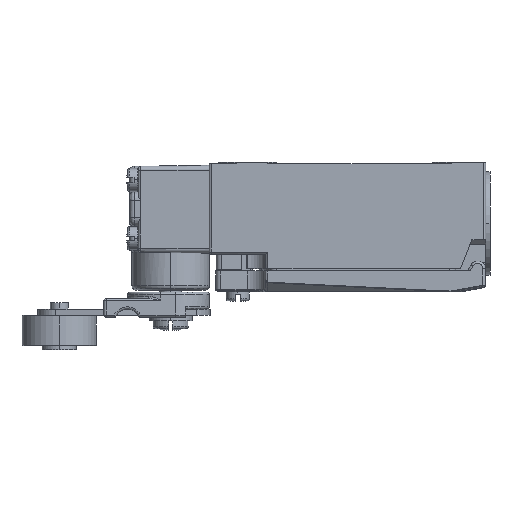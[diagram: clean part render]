
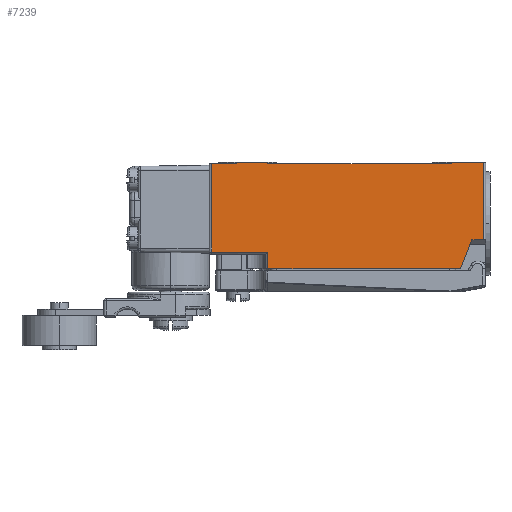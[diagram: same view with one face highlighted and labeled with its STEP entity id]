
A CAD part, left-side view. The second image highlights one B-rep face of the part: STEP entity #7239.
In plain terms, the highlighted planar face has unit normal (-1, 0, 0).
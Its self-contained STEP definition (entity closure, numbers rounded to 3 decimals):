
#1404=B_SPLINE_CURVE_WITH_KNOTS('',3,(#44862,#44863,#44864,#44865),
 .UNSPECIFIED.,.F.,.F.,(4,4),(0.,1.),.UNSPECIFIED.);
#1405=B_SPLINE_CURVE_WITH_KNOTS('',3,(#44982,#44983,#44984,#44985),
 .UNSPECIFIED.,.F.,.F.,(4,4),(0.,1.),.UNSPECIFIED.);
#1406=B_SPLINE_CURVE_WITH_KNOTS('',3,(#44986,#44987,#44988,#44989),
 .UNSPECIFIED.,.F.,.F.,(4,4),(0.,1.),.UNSPECIFIED.);
#1407=B_SPLINE_CURVE_WITH_KNOTS('',3,(#44991,#44992,#44993,#44994),
 .UNSPECIFIED.,.F.,.F.,(4,4),(0.,1.),.UNSPECIFIED.);
#1408=B_SPLINE_CURVE_WITH_KNOTS('',3,(#44996,#44997,#44998,#44999),
 .UNSPECIFIED.,.F.,.F.,(4,4),(0.,1.),.UNSPECIFIED.);
#1409=B_SPLINE_CURVE_WITH_KNOTS('',3,(#45007,#45008,#45009,#45010),
 .UNSPECIFIED.,.F.,.F.,(4,4),(0.,1.),.UNSPECIFIED.);
#1410=B_SPLINE_CURVE_WITH_KNOTS('',3,(#45011,#45012,#45013,#45014),
 .UNSPECIFIED.,.F.,.F.,(4,4),(0.,1.),.UNSPECIFIED.);
#1411=B_SPLINE_CURVE_WITH_KNOTS('',3,(#45015,#45016,#45017,#45018),
 .UNSPECIFIED.,.F.,.F.,(4,4),(0.,1.),.UNSPECIFIED.);
#2234=LINE('',#44846,#4811);
#2271=LINE('',#44965,#4848);
#2276=LINE('',#44979,#4853);
#2277=LINE('',#45001,#4854);
#2278=LINE('',#45003,#4855);
#2279=LINE('',#45005,#4856);
#4811=VECTOR('',#34747,1.);
#4848=VECTOR('',#34858,1.);
#4853=VECTOR('',#34869,1.);
#4854=VECTOR('',#34870,1.);
#4855=VECTOR('',#34871,1.);
#4856=VECTOR('',#34872,1.);
#7239=ADVANCED_FACE('',(#9702),#8825,.F.);
#8825=PLANE('',#31158);
#9702=FACE_OUTER_BOUND('',#11293,.T.);
#11293=EDGE_LOOP('',(#13835,#13836,#13837,#13838,#13839,#13840,#13841,#13842,
#13843,#13844,#13845,#13846,#13847,#13848));
#13835=ORIENTED_EDGE('',*,*,#25534,.F.);
#13836=ORIENTED_EDGE('',*,*,#25535,.F.);
#13837=ORIENTED_EDGE('',*,*,#25470,.F.);
#13838=ORIENTED_EDGE('',*,*,#25536,.T.);
#13839=ORIENTED_EDGE('',*,*,#25537,.T.);
#13840=ORIENTED_EDGE('',*,*,#25538,.T.);
#13841=ORIENTED_EDGE('',*,*,#25539,.T.);
#13842=ORIENTED_EDGE('',*,*,#25540,.F.);
#13843=ORIENTED_EDGE('',*,*,#25541,.F.);
#13844=ORIENTED_EDGE('',*,*,#25542,.T.);
#13845=ORIENTED_EDGE('',*,*,#25527,.F.);
#13846=ORIENTED_EDGE('',*,*,#25543,.T.);
#13847=ORIENTED_EDGE('',*,*,#25478,.F.);
#13848=ORIENTED_EDGE('',*,*,#25544,.T.);
#22320=VERTEX_POINT('',#44845);
#22321=VERTEX_POINT('',#44847);
#22328=VERTEX_POINT('',#44861);
#22329=VERTEX_POINT('',#44866);
#22360=VERTEX_POINT('',#44962);
#22361=VERTEX_POINT('',#44964);
#22368=VERTEX_POINT('',#44980);
#22369=VERTEX_POINT('',#44981);
#22370=VERTEX_POINT('',#44990);
#22371=VERTEX_POINT('',#44995);
#22372=VERTEX_POINT('',#45000);
#22373=VERTEX_POINT('',#45002);
#22374=VERTEX_POINT('',#45004);
#22375=VERTEX_POINT('',#45006);
#25470=EDGE_CURVE('',#22320,#22321,#2234,.T.);
#25478=EDGE_CURVE('',#22328,#22329,#1404,.T.);
#25527=EDGE_CURVE('',#22361,#22360,#2271,.T.);
#25534=EDGE_CURVE('',#22368,#22369,#2276,.T.);
#25535=EDGE_CURVE('',#22321,#22368,#1405,.T.);
#25536=EDGE_CURVE('',#22320,#22370,#1406,.T.);
#25537=EDGE_CURVE('',#22370,#22371,#1407,.T.);
#25538=EDGE_CURVE('',#22371,#22372,#1408,.T.);
#25539=EDGE_CURVE('',#22372,#22373,#2277,.T.);
#25540=EDGE_CURVE('',#22374,#22373,#2278,.T.);
#25541=EDGE_CURVE('',#22375,#22374,#2279,.T.);
#25542=EDGE_CURVE('',#22375,#22360,#1409,.T.);
#25543=EDGE_CURVE('',#22361,#22329,#1410,.T.);
#25544=EDGE_CURVE('',#22328,#22369,#1411,.T.);
#31158=AXIS2_PLACEMENT_3D('',#45019,#34873,#34874);
#34747=DIRECTION('',(0.,-1.,0.));
#34858=DIRECTION('',(0.,-1.,0.));
#34869=DIRECTION('',(0.,-1.,0.));
#34870=DIRECTION('',(0.,-1.,0.));
#34871=DIRECTION('',(0.,0.371,-0.928));
#34872=DIRECTION('',(0.,1.,0.));
#34873=DIRECTION('',(1.,0.,0.));
#34874=DIRECTION('',(0.,1.,0.));
#44845=CARTESIAN_POINT('',(160.488,12.728,24.587));
#44846=CARTESIAN_POINT('',(160.488,-50.973,24.587));
#44847=CARTESIAN_POINT('',(160.488,7.025,24.587));
#44861=CARTESIAN_POINT('',(160.488,-0.294,24.587));
#44862=CARTESIAN_POINT('',(160.488,-0.294,24.587));
#44863=CARTESIAN_POINT('',(160.488,-14.536,24.587));
#44864=CARTESIAN_POINT('',(160.488,-28.778,24.587));
#44865=CARTESIAN_POINT('',(160.488,-43.02,24.587));
#44866=CARTESIAN_POINT('',(160.488,-43.021,24.587));
#44962=CARTESIAN_POINT('',(160.488,-50.474,24.937));
#44964=CARTESIAN_POINT('',(160.488,-43.022,24.937));
#44965=CARTESIAN_POINT('',(160.488,-43.023,24.937));
#44979=CARTESIAN_POINT('',(160.488,7.028,24.937));
#44980=CARTESIAN_POINT('',(160.488,7.026,24.937));
#44981=CARTESIAN_POINT('',(160.488,-0.297,24.937));
#44982=CARTESIAN_POINT('',(160.488,7.025,24.587));
#44983=CARTESIAN_POINT('',(160.488,7.025,24.704));
#44984=CARTESIAN_POINT('',(160.488,7.026,24.82));
#44985=CARTESIAN_POINT('',(160.488,7.026,24.937));
#44986=CARTESIAN_POINT('',(160.488,12.728,24.587));
#44987=CARTESIAN_POINT('',(160.488,12.727,17.737));
#44988=CARTESIAN_POINT('',(160.488,12.727,10.887));
#44989=CARTESIAN_POINT('',(160.488,12.727,4.037));
#44990=CARTESIAN_POINT('',(160.488,12.727,4.037));
#44991=CARTESIAN_POINT('',(160.488,12.727,4.037));
#44992=CARTESIAN_POINT('',(160.488,8.36,4.037));
#44993=CARTESIAN_POINT('',(160.488,3.993,4.037));
#44994=CARTESIAN_POINT('',(160.488,-0.374,4.037));
#44995=CARTESIAN_POINT('',(160.488,-0.374,4.037));
#44996=CARTESIAN_POINT('',(160.488,-0.374,4.037));
#44997=CARTESIAN_POINT('',(160.488,-0.374,2.754));
#44998=CARTESIAN_POINT('',(160.488,-0.374,1.47));
#44999=CARTESIAN_POINT('',(160.488,-0.374,0.187));
#45000=CARTESIAN_POINT('',(160.488,-0.374,0.187));
#45001=CARTESIAN_POINT('',(160.488,7.028,0.187));
#45002=CARTESIAN_POINT('',(160.488,-45.093,0.187));
#45003=CARTESIAN_POINT('',(160.488,-46.439,3.55));
#45004=CARTESIAN_POINT('',(160.488,-47.773,6.887));
#45005=CARTESIAN_POINT('',(160.488,7.028,6.887));
#45006=CARTESIAN_POINT('',(160.488,-50.474,6.887));
#45007=CARTESIAN_POINT('',(160.488,-50.474,6.887));
#45008=CARTESIAN_POINT('',(160.488,-50.474,12.904));
#45009=CARTESIAN_POINT('',(160.488,-50.474,18.92));
#45010=CARTESIAN_POINT('',(160.488,-50.474,24.937));
#45011=CARTESIAN_POINT('',(160.488,-43.022,24.937));
#45012=CARTESIAN_POINT('',(160.488,-43.022,24.82));
#45013=CARTESIAN_POINT('',(160.488,-43.022,24.704));
#45014=CARTESIAN_POINT('',(160.488,-43.022,24.587));
#45015=CARTESIAN_POINT('',(160.488,-0.294,24.587));
#45016=CARTESIAN_POINT('',(160.488,-0.294,24.704));
#45017=CARTESIAN_POINT('',(160.488,-0.295,24.82));
#45018=CARTESIAN_POINT('',(160.488,-0.295,24.937));
#45019=CARTESIAN_POINT('',(160.488,7.028,24.937));
